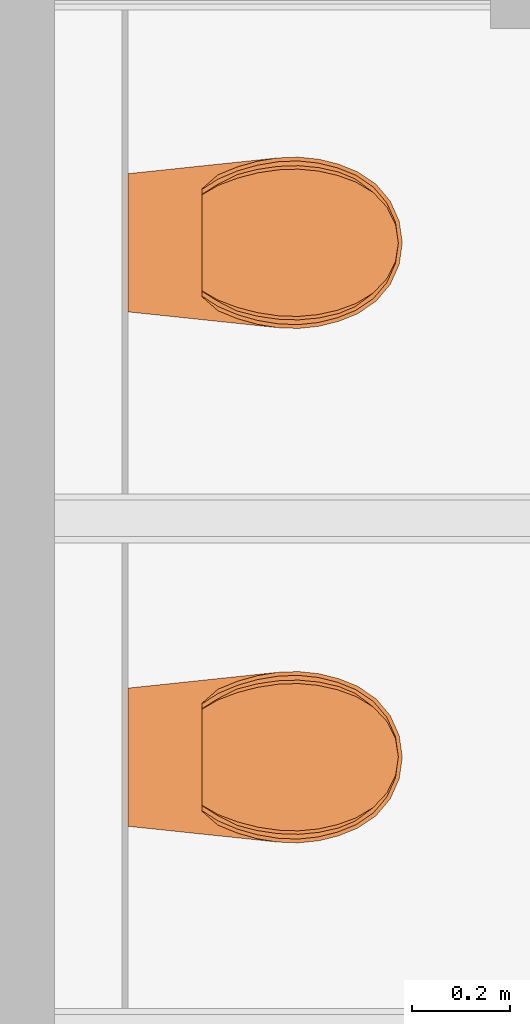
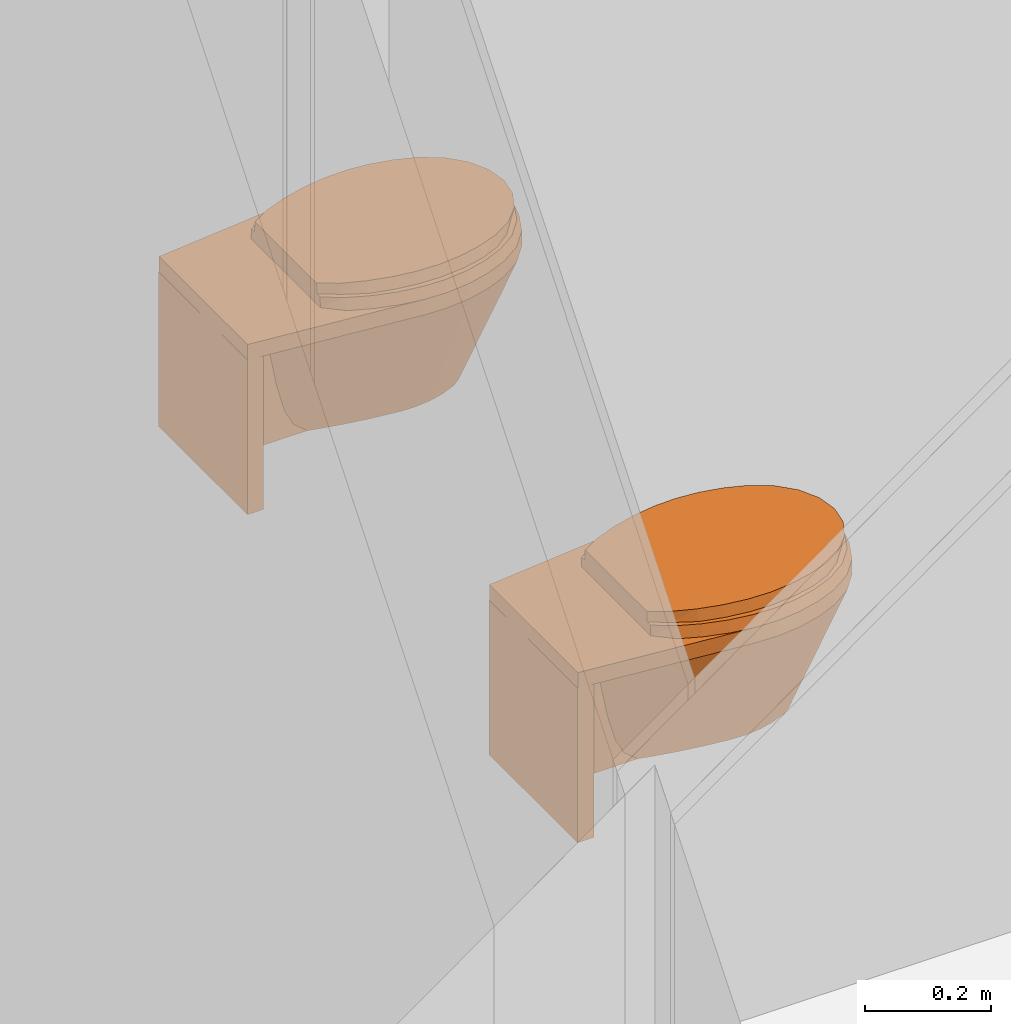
# One storey, part 129 of 135: 2 proxies.
"""IFC2X3 building model written with IfcOpenShell, lengths in millimetres."""

from ifc_helpers import new_model, entity, si_unit, converted_unit, derived_unit, money_unit, direction, frame, origin_with_axes, place, context, subcontext, project, spatial, open_shell, faceted_brep, surface_model, source, transform, mapped, type_object, type_shapes, element, save


model = new_model("IFC2X3")

# Units and contexts
model_context = context("Model", 3, precision=0.01, world=origin_with_axes(), true_north=direction((0.0, 1.0)))
body_context = subcontext(model_context, "Body", "Model", "MODEL_VIEW")
ifc_project = project(units=[si_unit("LENGTHUNIT", "METRE", prefix="MILLI"), si_unit("AREAUNIT", "SQUARE_METRE"), si_unit("VOLUMEUNIT", "CUBIC_METRE"), converted_unit("PLANEANGLEUNIT", "DEGREE", entity("IfcPlaneAngleMeasure", 0.0174532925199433), si_unit("PLANEANGLEUNIT", "RADIAN"), dimensions=[0, 0, 0, 0, 0, 0, 0]), money_unit("EUR"), converted_unit("TIMEUNIT", "Year", entity("IfcTimeMeasure", 31557600.0), si_unit("TIMEUNIT", "SECOND"), dimensions=[0, 0, 1, 0, 0, 0, 0]), si_unit("MASSUNIT", "GRAM", prefix="KILO"), si_unit("THERMODYNAMICTEMPERATUREUNIT", "DEGREE_CELSIUS"), si_unit("LUMINOUSINTENSITYUNIT", "LUMEN"), si_unit("ENERGYUNIT", "JOULE", prefix="MEGA"), derived_unit("THERMALCONDUCTANCEUNIT", [(si_unit("POWERUNIT", "WATT"), 1), (si_unit("LENGTHUNIT", "METRE"), -1), (si_unit("THERMODYNAMICTEMPERATUREUNIT", "KELVIN"), -1)]), derived_unit("SPECIFICHEATCAPACITYUNIT", [(si_unit("ENERGYUNIT", "JOULE"), 1), (si_unit("MASSUNIT", "GRAM", prefix="KILO"), -1), (si_unit("THERMODYNAMICTEMPERATUREUNIT", "KELVIN"), -1)]), derived_unit("MASSDENSITYUNIT", [(si_unit("MASSUNIT", "GRAM", prefix="KILO"), 1), (si_unit("VOLUMEUNIT", "CUBIC_METRE"), -1)])], contexts=[model_context])

# Site, building, storey
site_placement = place(None, origin_with_axes())
site = spatial("IfcSite", under=ifc_project, at=site_placement, Name="Site", CompositionType="ELEMENT")
building_placement = place(site_placement, origin_with_axes())
building = spatial("IfcBuilding", under=site, at=building_placement, Name="Naam gebouw", CompositionType="ELEMENT")
storey_placement = place(building_placement, origin_with_axes())
storey = spatial("IfcBuildingStorey", under=building, at=storey_placement, Name="Begane grond N", CompositionType="ELEMENT", Elevation=0.0)

# Proxies
building_element_proxy_type = type_object("IfcBuildingElementProxyType", Name="Toilet 27", PredefinedType="NOTDEFINED")
shared_shape = source(origin_with_axes(), body_context, "Body", "SurfaceModel", [
    faceted_brep([(141.0283315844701, -29.31865370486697, 69.99999999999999), (-141.0283315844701, -29.31865370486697, 69.99999999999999), (-141.0283315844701, 0.4949050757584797, 69.99999999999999), (141.0283315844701, 0.4949050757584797, 69.99999999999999), (141.0283315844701, -29.31865370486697, 370.0), (-141.0283315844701, -29.31865370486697, 370.0), (-141.0283315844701, 0.4949050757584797, 370.0), (141.0283315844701, 0.4949050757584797, 370.0)], [[[0, 1, 2, 3]], [[1, 0, 4, 5]], [[2, 1, 5, 6]], [[3, 2, 6, 7]], [[0, 3, 7, 4]], [[5, 4, 7, 6]]]),
    faceted_brep([(0.0, -70.89167385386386, 370.0), (29.22322490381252, -74.34010881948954, 370.0), (48.96817068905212, -81.5929972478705, 370.0), (48.96817068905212, -29.31865370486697, 370.0), (-48.96817068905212, -29.31865370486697, 370.0), (-48.96817068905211, -81.5929972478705, 370.0), (-29.22322490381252, -74.34010881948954, 370.0), (13.70129415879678, -104.9506834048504, 120.0), (48.96817068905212, -91.42153264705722, 305.9289314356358), (25.9903462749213, -111.5027098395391, 120.0), (48.96817068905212, -132.9294031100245, 150.8349994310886), (48.96817068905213, -162.8654130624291, 120.0), (48.96817068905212, -29.31865370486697, 120.0), (48.96817068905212, -98.32654517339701, 277.0091093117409), (48.96817068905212, -115.6023982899, 192.7960154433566), (48.96817068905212, -128.1614437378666, 166.4745945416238), (-48.96817068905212, -29.31865370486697, 120.0), (-48.96817068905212, -88.2509938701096, 324.1614695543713), (-48.96817068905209, -162.865413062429, 120.0), (-48.96817068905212, -136.958898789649, 141.3134093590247), (-48.96817068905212, -132.9294031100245, 150.8349994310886), (-48.96817068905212, -121.830119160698, 170.4964192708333), (-48.96817068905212, -115.6023982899, 192.7960154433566), (-48.96817068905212, -107.0876370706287, 223.4625696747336), (-48.96817068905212, -91.42153264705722, 305.9289314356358), (-13.70129415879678, -104.9506834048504, 120.0), (0.0, -102.6888280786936, 120.0), (35.59888072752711, -121.6691333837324, 120.0), (41.53676110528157, -134.4015105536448, 120.0), (-41.53676110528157, -134.4015105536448, 120.0), (-25.9903462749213, -111.5027098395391, 120.0), (-35.59888072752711, -121.6691333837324, 120.0)], [[[0, 1, 2, 3, 4, 5, 6]], [[1, 0, 7]], [[8, 2, 1, 9]], [[10, 11, 12, 3, 2, 8, 13, 14, 15]], [[3, 12, 16, 4]], [[17, 5, 4, 16, 18, 19, 20, 21, 22, 23, 24]], [[6, 5, 17, 25]], [[0, 6, 26]], [[26, 7, 0]], [[7, 9, 1]], [[13, 8, 9, 27]], [[11, 10, 28]], [[29, 18, 16, 12, 11, 28, 27, 9, 7, 26, 25, 30, 31]], [[14, 13, 27]], [[15, 14, 27, 28]], [[10, 15, 28]], [[18, 29, 19]], [[20, 19, 29]], [[29, 31, 21, 20]], [[22, 21, 31]], [[31, 30, 23, 22]], [[24, 23, 30]], [[30, 25, 17, 24]], [[25, 26, 6]]]),
    surface_model("IfcShellBasedSurfaceModel", [(17.69122070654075, -459.020482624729, 120.0), (34.02798181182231, -451.6883347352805, 120.0), (85.18209164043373, -535.3680377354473, 370.0), (0.0, -461.5278029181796, 120.0), (-17.69122070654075, -459.020482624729, 120.0), (-34.02798181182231, -451.6883347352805, 120.0), (-47.75865687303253, -440.0938417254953, 120.0), (-57.83238894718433, -425.1254476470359, 120.0), (-68.23029031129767, -399.4182096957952, 120.0), (-74.94382651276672, -372.4786779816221, 120.0), (-77.83882476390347, -344.8464779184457, 120.0), (-76.85750262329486, -317.0761416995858, 120.0), (-70.97348723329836, -270.8651255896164, 120.0), (-63.11507520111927, -224.9582077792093, 120.0), (-53.29597761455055, -179.4418475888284, 120.0), (-41.53676110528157, -134.4015105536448, 120.0), (-35.59888072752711, -121.6691333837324, 120.0), (-25.9903462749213, -111.5027098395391, 120.0), (-13.70129415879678, -104.9506834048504, 120.0), (0.0, -102.6888280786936, 120.0), (13.70129415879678, -104.9506834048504, 120.0), (25.9903462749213, -111.5027098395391, 120.0), (35.59888072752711, -121.6691333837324, 120.0), (41.53676110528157, -134.4015105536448, 120.0), (53.29597761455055, -179.4418475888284, 120.0), (63.11507520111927, -224.9582077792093, 120.0), (70.97348723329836, -270.8651255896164, 120.0), (76.85750262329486, -317.0761416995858, 120.0), (77.83882476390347, -344.845484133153, 120.0), (74.94382651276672, -372.4786779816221, 120.0), (68.23029031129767, -399.4182096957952, 120.0), (57.83238894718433, -425.1254476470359, 120.0), (47.75865687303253, -440.0938417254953, 120.0), (119.554809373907, -506.3435444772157, 370.0), (44.28681357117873, -553.722258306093, 370.0), (0.0, -560.0, 370.0), (-44.28681357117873, -553.722258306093, 370.0), (-85.18209164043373, -535.3680377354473, 370.0), (-119.554809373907, -506.3435444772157, 370.0), (-144.7734172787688, -468.8718762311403, 370.0), (-160.3893669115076, -430.2603362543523, 370.0), (-170.4738719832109, -389.7973742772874, 370.0), (-174.8222455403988, -348.2949128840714, 370.0), (-173.3473242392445, -306.5847503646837, 370.0), (-164.8111927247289, -257.295981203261, 370.0), (-149.8396642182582, -209.614162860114, 370.0), (-128.7050017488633, -164.3989196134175, 370.0), (-101.7881776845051, -122.4661491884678, 370.0), (-81.51241692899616, -100.8344247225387, 370.0), (-56.88632388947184, -84.50156343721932, 370.0), (-29.22322490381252, -74.34010881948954, 370.0), (0.0, -70.89167385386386, 370.0), (29.22322490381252, -74.34010881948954, 370.0), (56.88632388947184, -84.50156343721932, 370.0), (81.51241692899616, -100.8344247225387, 370.0), (101.7881776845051, -122.4661491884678, 370.0), (128.7050017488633, -164.3989196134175, 370.0), (149.8396642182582, -209.614162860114, 370.0), (164.8111927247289, -257.2969749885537, 370.0), (173.3473242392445, -306.5847503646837, 370.0), (174.8222455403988, -348.2949128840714, 370.0), (170.4738719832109, -389.7973742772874, 370.0), (160.3903462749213, -430.2603362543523, 370.0), (144.7734172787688, -468.8718762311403, 370.0)], [open_shell([[[0, 1, 2]], [[0, 3, 4, 5, 6, 7, 8, 9, 10, 11, 12, 13, 14, 15, 16, 17, 18, 19, 20, 21, 22, 23, 24, 25, 26, 27, 28, 29, 30, 31, 32, 1]], [[1, 33, 2]], [[0, 2, 34]], [[3, 0, 34]], [[4, 3, 35]], [[5, 4, 36]], [[6, 5, 37]], [[7, 6, 38]], [[8, 7, 39]], [[9, 8, 40]], [[10, 9, 41]], [[11, 10, 42]], [[12, 11, 43]], [[13, 12, 44]], [[14, 13, 45]], [[15, 14, 46]], [[16, 15, 47]], [[17, 16, 48]], [[18, 17, 49]], [[19, 18, 50]], [[20, 19, 51]], [[21, 20, 52]], [[22, 21, 53]], [[23, 22, 54]], [[24, 23, 55]], [[25, 24, 56]], [[26, 25, 57]], [[27, 26, 58]], [[28, 27, 59]], [[29, 28, 60]], [[30, 29, 61]], [[31, 30, 62]], [[32, 31, 63]], [[1, 32, 33]], [[3, 34, 35]], [[4, 35, 36]], [[5, 36, 37]], [[6, 37, 38]], [[7, 38, 39]], [[8, 39, 40]], [[9, 40, 41]], [[10, 41, 42]], [[11, 42, 43]], [[12, 43, 44]], [[13, 44, 45]], [[14, 45, 46]], [[15, 46, 47]], [[16, 47, 48]], [[17, 48, 49]], [[18, 49, 50]], [[19, 50, 51]], [[20, 51, 52]], [[21, 52, 53]], [[22, 53, 54]], [[23, 54, 55]], [[24, 55, 56]], [[25, 56, 57]], [[26, 57, 58]], [[27, 58, 59]], [[28, 59, 60]], [[29, 60, 61]], [[30, 61, 62]], [[31, 62, 63]], [[32, 63, 33]]])]),
    faceted_brep([(-173.3473242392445, -306.5847503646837, 370.0), (-174.8222455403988, -348.2949128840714, 370.0), (-174.8222455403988, -348.2949128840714, 400.0), (-173.3473242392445, -306.5847503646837, 400.0), (-140.9734872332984, 0.0, 370.0), (140.975445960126, 0.0, 370.0), (173.3473242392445, -306.5847503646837, 370.0), (174.8222455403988, -348.2949128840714, 370.0), (170.4738719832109, -389.7973742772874, 370.0), (160.3903462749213, -430.2603362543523, 370.0), (144.7734172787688, -468.8718762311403, 370.0), (119.554809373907, -506.3435444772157, 370.0), (85.18209164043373, -535.3680377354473, 370.0), (44.28681357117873, -553.722258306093, 370.0), (0.0, -560.0, 370.0), (-44.28681357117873, -553.722258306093, 370.0), (-85.18209164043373, -535.3680377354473, 370.0), (-119.554809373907, -506.3435444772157, 370.0), (-144.7734172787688, -468.8718762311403, 370.0), (-160.3893669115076, -430.2603362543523, 370.0), (-170.4738719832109, -389.7973742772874, 370.0), (144.5021336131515, -309.7211367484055, 370.0), (129.3885974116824, -258.2838037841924, 370.0), (97.13522210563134, -215.7418429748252, 370.0), (52.01301154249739, -187.731010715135, 370.0), (0.0, -177.9630950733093, 370.0), (-52.01301154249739, -187.731010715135, 370.0), (-97.13522210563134, -215.7418429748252, 370.0), (-129.3885974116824, -258.2838037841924, 370.0), (-144.5021336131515, -309.7211367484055, 370.0), (-145.8291710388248, -347.2633637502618, 370.0), (-141.914655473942, -384.6197529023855, 370.0), (-132.838894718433, -421.0399963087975, 370.0), (-118.7820916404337, -455.7936617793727, 370.0), (-98.09206016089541, -486.5383973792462, 370.0), (-69.89031129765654, -510.3524743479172, 370.0), (-36.33634137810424, -525.411302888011, 370.0), (0.0, -530.5620920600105, 370.0), (36.33634137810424, -525.411302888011, 370.0), (69.89031129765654, -510.3524743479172, 370.0), (98.09206016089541, -486.5383973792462, 370.0), (118.7820916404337, -455.7936617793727, 370.0), (132.838894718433, -421.0399963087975, 370.0), (141.914655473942, -384.6197529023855, 370.0), (145.8291710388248, -347.2633637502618, 370.0), (-170.4738719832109, -389.7973742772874, 400.0), (-160.3893669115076, -430.2603362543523, 400.0), (-144.7734172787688, -468.8718762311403, 400.0), (-119.554809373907, -506.3435444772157, 400.0), (-85.18209164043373, -535.3680377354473, 400.0), (-44.28681357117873, -553.722258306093, 400.0), (0.0, -560.0, 400.0), (44.28681357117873, -553.722258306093, 400.0), (85.18209164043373, -535.3680377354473, 400.0), (119.554809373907, -506.3435444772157, 400.0), (144.7734172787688, -468.8718762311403, 400.0), (160.3903462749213, -430.2603362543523, 400.0), (170.4738719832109, -389.7973742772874, 400.0), (174.8222455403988, -348.2949128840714, 400.0), (173.3473242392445, -306.5847503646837, 400.0), (140.975445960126, 0.0, 400.0), (-140.9734872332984, 0.0, 400.0), (144.5021336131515, -309.7211367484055, 400.0), (145.8291710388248, -347.2633637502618, 400.0), (141.914655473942, -384.6197529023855, 400.0), (132.838894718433, -421.0399963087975, 400.0), (118.7820916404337, -455.7936617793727, 400.0), (98.09206016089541, -486.5383973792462, 400.0), (69.89031129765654, -510.3524743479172, 400.0), (36.33634137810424, -525.411302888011, 400.0), (0.0, -530.5620920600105, 400.0), (-36.33634137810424, -525.411302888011, 400.0), (-69.89031129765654, -510.3524743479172, 400.0), (-98.09206016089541, -486.5383973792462, 400.0), (-118.7820916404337, -455.7936617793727, 400.0), (-132.838894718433, -421.0399963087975, 400.0), (-141.914655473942, -384.6197529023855, 400.0), (-145.8291710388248, -347.2633637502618, 400.0), (-144.5021336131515, -309.7211367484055, 400.0), (-129.3885974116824, -258.2838037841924, 400.0), (-97.13522210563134, -215.7418429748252, 400.0), (-52.01301154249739, -187.731010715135, 400.0), (0.0, -177.9630950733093, 400.0), (52.01301154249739, -187.731010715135, 400.0), (97.13522210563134, -215.7418429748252, 400.0), (129.3885974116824, -258.2838037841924, 400.0)], [[[0, 1, 2, 3]], [[0, 4, 5, 6, 7, 8, 9, 10, 11, 12, 13, 14, 15, 16, 17, 18, 19, 20, 1], [21, 22, 23, 24, 25, 26, 27, 28, 29, 30, 31, 32, 33, 34, 35, 36, 37, 38, 39, 40, 41, 42, 43, 44]], [[1, 20, 45, 2]], [[3, 2, 45, 46, 47, 48, 49, 50, 51, 52, 53, 54, 55, 56, 57, 58, 59, 60, 61], [62, 63, 64, 65, 66, 67, 68, 69, 70, 71, 72, 73, 74, 75, 76, 77, 78, 79, 80, 81, 82, 83, 84, 85]], [[4, 0, 3, 61]], [[5, 4, 61, 60]], [[6, 5, 60, 59]], [[7, 6, 59, 58]], [[8, 7, 58, 57]], [[9, 8, 57, 56]], [[10, 9, 56, 55]], [[11, 10, 55, 54]], [[12, 11, 54, 53]], [[13, 12, 53, 52]], [[14, 13, 52, 51]], [[15, 14, 51, 50]], [[16, 15, 50, 49]], [[17, 16, 49, 48]], [[18, 17, 48, 47]], [[19, 18, 47, 46]], [[20, 19, 46, 45]], [[22, 21, 62, 85]], [[23, 22, 85, 84]], [[24, 23, 84, 83]], [[25, 24, 83, 82]], [[26, 25, 82, 81]], [[27, 26, 81, 80]], [[28, 27, 80, 79]], [[29, 28, 79, 78]], [[30, 29, 78, 77]], [[31, 30, 77, 76]], [[32, 31, 76, 75]], [[33, 32, 75, 74]], [[34, 33, 74, 73]], [[35, 34, 73, 72]], [[36, 35, 72, 71]], [[37, 36, 71, 70]], [[38, 37, 70, 69]], [[39, 38, 69, 68]], [[40, 39, 68, 67]], [[41, 40, 67, 66]], [[42, 41, 66, 65]], [[43, 42, 65, 64]], [[44, 43, 64, 63]], [[21, 44, 63, 62]]]),
    surface_model("IfcShellBasedSurfaceModel", [(16.80665967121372, -465.7329258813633, 220.0), (32.3265827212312, -460.0138505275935, 220.0), (80.92298705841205, -525.2840188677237, 370.0), (0.0, -467.6886357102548, 220.0), (-16.80665967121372, -465.7329258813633, 220.0), (-32.3265827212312, -460.0138505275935, 220.0), (-45.3707240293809, -450.970145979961, 220.0), (-54.94076949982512, -439.2947985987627, 220.0), (-64.81877579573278, -419.2431529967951, 220.0), (-71.1966351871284, -398.23031825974, 220.0), (-73.9468835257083, -376.6772022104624, 220.0), (-73.01462749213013, -355.0163399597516, 220.0), (-67.42481287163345, -318.9717473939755, 220.0), (-59.95932144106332, -283.164351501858, 220.0), (-50.63117873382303, -247.6615905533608, 220.0), (-39.4599230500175, -212.5301276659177, 220.0), (-33.81893669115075, -202.598873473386, 220.0), (-24.69082896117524, -194.6690631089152, 220.0), (-13.01622945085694, -189.558482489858, 220.0), (0.0, -187.7942353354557, 220.0), (13.01622945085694, -189.558482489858, 220.0), (24.69082896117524, -194.6690631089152, 220.0), (33.81893669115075, -202.598873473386, 220.0), (39.4599230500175, -212.5301276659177, 220.0), (50.63117873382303, -247.6615905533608, 220.0), (59.95932144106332, -283.164351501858, 220.0), (67.42481287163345, -318.9717473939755, 220.0), (73.01462749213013, -355.0163399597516, 220.0), (73.9468835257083, -376.6764270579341, 220.0), (71.1966351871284, -398.23031825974, 220.0), (64.81877579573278, -419.2431529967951, 220.0), (54.94076949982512, -439.2947985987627, 220.0), (45.3707240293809, -450.970145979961, 220.0), (113.5770689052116, -502.644914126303, 370.0), (42.0724728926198, -539.6003109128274, 370.0), (0.0, -544.4969494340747, 370.0), (-42.0724728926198, -539.6003109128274, 370.0), (-80.92298705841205, -525.2840188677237, 370.0), (-113.5770689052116, -502.644914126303, 370.0), (-137.5347464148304, -473.4170128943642, 370.0), (-152.3698985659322, -443.3000117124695, 370.0), (-161.9501783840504, -411.7389013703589, 370.0), (-166.0811332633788, -379.3669814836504, 370.0), (-164.6799580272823, -346.833054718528, 370.0), (-156.5706330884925, -308.3878147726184, 370.0), (-142.3476810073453, -271.1959964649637, 370.0), (-122.2697516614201, -235.9281067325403, 370.0), (-96.69876880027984, -203.2205458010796, 370.0), (-77.43679608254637, -186.3478007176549, 370.0), (-54.04200769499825, -173.6081689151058, 370.0), (-27.7620636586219, -165.6822343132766, 370.0), (0.0, -162.9924550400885, 370.0), (27.7620636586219, -165.6822343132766, 370.0), (54.04200769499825, -173.6081689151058, 370.0), (77.43679608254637, -186.3478007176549, 370.0), (96.69876880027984, -203.2205458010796, 370.0), (122.2697516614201, -235.9281067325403, 370.0), (142.3476810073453, -271.1959964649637, 370.0), (156.5706330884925, -308.3885899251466, 370.0), (164.6799580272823, -346.833054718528, 370.0), (166.0811332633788, -379.3669814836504, 370.0), (161.9501783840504, -411.7389013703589, 370.0), (152.3708289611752, -443.3000117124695, 370.0), (137.5347464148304, -473.4170128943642, 370.0)], [open_shell([[[0, 1, 2]], [[0, 3, 4, 5, 6, 7, 8, 9, 10, 11, 12, 13, 14, 15, 16, 17, 18, 19, 20, 21, 22, 23, 24, 25, 26, 27, 28, 29, 30, 31, 32, 1]], [[1, 33, 2]], [[0, 2, 34]], [[3, 0, 34]], [[4, 3, 35]], [[5, 4, 36]], [[6, 5, 37]], [[7, 6, 38]], [[8, 7, 39]], [[9, 8, 40]], [[10, 9, 41]], [[11, 10, 42]], [[12, 11, 43]], [[13, 12, 44]], [[14, 13, 45]], [[15, 14, 46]], [[16, 15, 47]], [[17, 16, 48]], [[18, 17, 49]], [[19, 18, 50]], [[20, 19, 51]], [[21, 20, 52]], [[22, 21, 53]], [[23, 22, 54]], [[24, 23, 55]], [[25, 24, 56]], [[26, 25, 57]], [[27, 26, 58]], [[28, 27, 59]], [[29, 28, 60]], [[30, 29, 61]], [[31, 30, 62]], [[32, 31, 63]], [[1, 32, 33]], [[3, 34, 35]], [[4, 35, 36]], [[5, 36, 37]], [[6, 37, 38]], [[7, 38, 39]], [[8, 39, 40]], [[9, 40, 41]], [[10, 41, 42]], [[11, 42, 43]], [[12, 43, 44]], [[13, 44, 45]], [[14, 45, 46]], [[15, 46, 47]], [[16, 47, 48]], [[17, 48, 49]], [[18, 49, 50]], [[19, 50, 51]], [[20, 51, 52]], [[21, 52, 53]], [[22, 53, 54]], [[23, 54, 55]], [[24, 55, 56]], [[25, 56, 57]], [[26, 57, 58]], [[27, 58, 59]], [[28, 59, 60]], [[29, 60, 61]], [[30, 61, 62]], [[31, 62, 63]], [[32, 63, 33]]])]),
    faceted_brep([(0.0, -560.0, 400.0), (-44.28681357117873, -553.722258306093, 400.0), (-85.18209164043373, -535.3680377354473, 400.0), (-119.554809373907, -506.3435444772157, 400.0), (-144.7734172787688, -468.8718762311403, 400.0), (-160.3893669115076, -430.2603362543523, 400.0), (-170.4738719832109, -389.7973742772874, 400.0), (-174.8222455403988, -348.2949128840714, 400.0), (-173.3473242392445, -306.5847503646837, 400.0), (-166.4663168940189, -264.4263906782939, 400.0), (-154.8716334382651, -223.3443004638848, 400.0), (-138.7150752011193, -183.8810864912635, 400.0), (-110.1926579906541, -151.3163525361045, 400.0), (110.1926579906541, -151.3163525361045, 400.0), (138.7150752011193, -183.8810864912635, 400.0), (154.8716334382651, -223.3443004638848, 400.0), (166.4663168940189, -264.4263906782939, 400.0), (173.3473242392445, -306.5847503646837, 400.0), (174.8222455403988, -348.2949128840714, 400.0), (170.4738719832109, -389.7973742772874, 400.0), (160.3903462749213, -430.2603362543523, 400.0), (144.7734172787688, -468.8718762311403, 400.0), (119.554809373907, -506.3435444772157, 400.0), (85.18209164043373, -535.3680377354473, 400.0), (44.28681357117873, -553.722258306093, 400.0), (87.07689659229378, -411.9963613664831, 400.0), (94.51085540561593, -382.2763031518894, 400.0), (97.71606496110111, -351.7983255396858, 400.0), (96.61425296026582, -320.7429308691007, 400.0), (90.99294096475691, -286.7942733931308, 400.0), (81.32886310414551, -253.3381075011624, 400.0), (68.75448552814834, -223.4663237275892, 400.0), (-68.75412876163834, -223.4663237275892, 400.0), (-81.3289539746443, -253.3384220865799, 400.0), (-90.99294096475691, -286.7942733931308, 400.0), (-96.61425296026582, -320.7429308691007, 400.0), (-97.71606496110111, -351.7983255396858, 400.0), (-94.51085540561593, -382.2763031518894, 400.0), (-87.07689659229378, -411.9963613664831, 400.0), (-76.4888004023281, -438.0775703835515, 400.0), (-62.06856874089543, -459.4262123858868, 400.0), (-44.26109835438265, -474.4067566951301, 400.0), (-23.02579943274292, -483.9023013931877, 400.0), (0.0, -487.1544663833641, 400.0), (23.02579943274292, -483.9023013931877, 400.0), (44.26109835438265, -474.4067566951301, 400.0), (62.06856874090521, -459.4262123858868, 400.0), (76.4888004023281, -438.0775703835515, 400.0), (0.0, -552.0944379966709, 420.0000000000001), (-42.15180132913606, -546.1188070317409, 420.0000000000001), (-81.07562084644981, -528.649055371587, 420.0000000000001), (-113.7912556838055, -501.0248055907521, 420.0000000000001), (-137.7925148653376, -465.3598390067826, 420.0000000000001), (-152.9902763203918, -427.7848170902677, 420.0000000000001), (-162.8034977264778, -388.4070686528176, 420.0000000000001), (-167.0353270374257, -348.0176467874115, 420.0000000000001), (-165.6005596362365, -307.4274802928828, 420.0000000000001), (-158.5902763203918, -264.9332211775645, 420.0000000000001), (-146.6880727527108, -223.5758524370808, 420.0000000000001), (-130.06142007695, -183.9317695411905, 420.0000000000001), (-108.940468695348, -151.3163525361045, 420.0000000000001), (108.940468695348, -151.3163525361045, 420.0000000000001), (130.06142007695, -183.9307757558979, 420.0000000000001), (146.6880727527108, -223.5758524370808, 420.0000000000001), (158.5902763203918, -264.9332211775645, 420.0000000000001), (165.6005596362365, -307.4274802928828, 420.0000000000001), (167.0353270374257, -348.0176467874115, 420.0000000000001), (162.8034977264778, -388.4070686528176, 420.0000000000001), (152.9902763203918, -427.7848170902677, 420.0000000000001), (137.7925148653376, -465.3598390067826, 420.0000000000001), (113.7912556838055, -501.0248055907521, 420.0000000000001), (81.07562084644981, -528.649055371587, 420.0000000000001), (42.15180132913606, -546.1188070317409, 420.0000000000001), (87.07689659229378, -411.9963613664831, 420.0), (94.51085540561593, -382.2763031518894, 420.0), (97.71606496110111, -351.7983255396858, 420.0), (96.61425296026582, -320.7429308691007, 420.0), (90.99294096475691, -286.7942733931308, 420.0), (81.32886310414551, -253.3381075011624, 420.0), (68.75448552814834, -223.4663237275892, 420.0), (-68.75412876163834, -223.4663237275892, 420.0000000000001), (-81.3289539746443, -253.3384220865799, 420.0000000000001), (-90.99294096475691, -286.7942733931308, 420.0000000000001), (-96.61425296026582, -320.7429308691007, 420.0000000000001), (-97.71606496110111, -351.7983255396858, 420.0000000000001), (-94.51085540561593, -382.2763031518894, 420.0000000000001), (-87.07689659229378, -411.9963613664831, 420.0000000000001), (-76.4888004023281, -438.0775703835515, 420.0000000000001), (-62.06856874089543, -459.4262123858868, 420.0000000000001), (-44.26109835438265, -474.4067566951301, 420.0000000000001), (-23.02579943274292, -483.9023013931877, 420.0000000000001), (0.0, -487.1544663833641, 420.0), (23.02579943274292, -483.9023013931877, 420.0), (44.26109835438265, -474.4067566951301, 420.0), (62.06856874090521, -459.4262123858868, 420.0), (76.4888004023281, -438.0775703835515, 420.0)], [[[0, 1, 2, 3, 4, 5, 6, 7, 8, 9, 10, 11, 12, 13, 14, 15, 16, 17, 18, 19, 20, 21, 22, 23, 24], [25, 26, 27, 28, 29, 30, 31, 32, 33, 34, 35, 36, 37, 38, 39, 40, 41, 42, 43, 44, 45, 46, 47]], [[1, 0, 48]], [[2, 1, 49]], [[3, 2, 50]], [[4, 3, 51]], [[5, 4, 52]], [[6, 5, 53]], [[6, 54, 55, 7]], [[8, 7, 55]], [[9, 8, 56]], [[10, 9, 57]], [[11, 10, 58]], [[12, 11, 59]], [[12, 60, 61, 13]], [[14, 13, 61]], [[15, 14, 62]], [[16, 15, 63]], [[17, 16, 64]], [[18, 17, 65]], [[18, 66, 67, 19]], [[20, 19, 67]], [[20, 68, 69, 21]], [[22, 21, 69]], [[23, 22, 70]], [[24, 23, 71]], [[0, 24, 72]], [[73, 74, 26, 25]], [[74, 75, 27, 26]], [[75, 76, 28, 27]], [[76, 77, 29, 28]], [[77, 78, 30, 29]], [[78, 79, 31, 30]], [[79, 80, 32, 31]], [[80, 81, 33, 32]], [[81, 82, 34, 33]], [[82, 83, 35, 34]], [[83, 84, 36, 35]], [[84, 85, 37, 36]], [[85, 86, 38, 37]], [[86, 87, 39, 38]], [[87, 88, 40, 39]], [[88, 89, 41, 40]], [[89, 90, 42, 41]], [[90, 91, 43, 42]], [[91, 92, 44, 43]], [[92, 93, 45, 44]], [[93, 94, 46, 45]], [[94, 95, 47, 46]], [[95, 73, 25, 47]], [[0, 72, 48]], [[1, 48, 49]], [[2, 49, 50]], [[3, 50, 51]], [[4, 51, 52]], [[5, 52, 53]], [[6, 53, 54]], [[54, 53, 52, 51, 50, 49, 48, 72, 71, 70, 69, 68, 67, 66, 65, 64, 63, 62, 61, 60, 59, 58, 57, 56, 55], [77, 76, 75, 74, 73, 95, 94, 93, 92, 91, 90, 89, 88, 87, 86, 85, 84, 83, 82, 81, 80, 79, 78]], [[8, 55, 56]], [[9, 56, 57]], [[10, 57, 58]], [[11, 58, 59]], [[12, 59, 60]], [[14, 61, 62]], [[15, 62, 63]], [[16, 63, 64]], [[17, 64, 65]], [[18, 65, 66]], [[20, 67, 68]], [[22, 69, 70]], [[23, 70, 71]], [[24, 71, 72]]]),
    faceted_brep([(-107.5993284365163, -494.4181209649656, 420.0000000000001), (-76.66388247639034, -519.4674730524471, 420.0000000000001), (-72.96805876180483, -528.649055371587, 440.0000000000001), (-130.2960755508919, -463.9029497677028, 420.0000000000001), (-144.3504302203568, -430.2603362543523, 420.0000000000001), (-153.4264847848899, -389.7973742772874, 420.0000000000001), (-157.3400209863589, -348.2949128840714, 420.0000000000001), (-156.01259181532, -306.5847503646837, 420.0000000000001), (-149.819685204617, -264.4263906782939, 420.0000000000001), (-139.3844700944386, -223.3443004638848, 420.0000000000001), (-119.5550052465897, -183.8810864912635, 420.0000000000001), (-99.17339219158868, -151.3163525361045, 420.0000000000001), (99.17339219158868, -151.3163525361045, 420.0000000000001), (119.5550052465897, -183.8810864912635, 420.0000000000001), (139.3844700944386, -223.3443004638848, 420.0000000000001), (149.819685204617, -264.4263906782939, 420.0000000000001), (156.01259181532, -306.5847503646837, 420.0000000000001), (157.3400209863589, -348.2949128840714, 420.0000000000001), (153.4264847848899, -389.7973742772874, 420.0000000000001), (144.3513116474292, -430.2603362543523, 420.0000000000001), (130.2960755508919, -463.9029497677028, 420.0000000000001), (107.5993284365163, -494.4181209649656, 420.0000000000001), (76.66388247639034, -519.4674730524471, 420.0000000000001), (39.85813221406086, -538.8154789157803, 420.0000000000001), (0.0, -545.0932206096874, 420.0000000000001), (-39.85813221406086, -538.8154789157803, 420.0000000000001), (-37.93662119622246, -546.1188070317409, 440.0000000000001), (-102.412130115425, -501.0248055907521, 440.0000000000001), (-124.0132633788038, -465.3598390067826, 440.0000000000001), (-137.6912486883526, -427.7848170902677, 440.0000000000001), (-146.52314795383, -388.4070686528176, 440.0000000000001), (-150.3317943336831, -348.0176467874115, 440.0000000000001), (-149.0405036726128, -307.4274802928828, 440.0000000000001), (-142.7312486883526, -264.9332211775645, 440.0000000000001), (-132.0192654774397, -223.5758524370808, 440.0000000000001), (-117.055278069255, -183.9317695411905, 440.0000000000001), (-98.04642182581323, -151.3163525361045, 440.0000000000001), (98.04642182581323, -151.3163525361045, 440.0000000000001), (117.055278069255, -183.9307757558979, 440.0000000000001), (132.0192654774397, -223.5758524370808, 440.0000000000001), (142.7312486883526, -264.9332211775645, 440.0000000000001), (149.0405036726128, -307.4274802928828, 440.0000000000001), (150.3317943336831, -348.0176467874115, 440.0000000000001), (146.52314795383, -388.4070686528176, 440.0000000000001), (137.6912486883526, -427.7848170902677, 440.0000000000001), (124.0132633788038, -465.3598390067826, 440.0000000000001), (102.412130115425, -501.0248055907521, 440.0000000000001), (72.96805876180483, -528.649055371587, 440.0000000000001), (37.93662119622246, -546.1188070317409, 440.0000000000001), (0.0, -552.0944379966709, 440.0000000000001)], [[[0, 1, 2]], [[0, 3, 4, 5, 6, 7, 8, 9, 10, 11, 12, 13, 14, 15, 16, 17, 18, 19, 20, 21, 22, 23, 24, 25, 1]], [[1, 26, 2]], [[0, 2, 27]], [[3, 0, 27]], [[4, 3, 28]], [[5, 4, 29]], [[6, 5, 30, 31]], [[7, 6, 31]], [[8, 7, 32]], [[9, 8, 33]], [[10, 9, 34]], [[11, 10, 35]], [[12, 11, 36, 37]], [[13, 12, 37]], [[14, 13, 38]], [[15, 14, 39]], [[16, 15, 40]], [[17, 16, 41]], [[18, 17, 42, 43]], [[19, 18, 43]], [[20, 19, 44]], [[21, 20, 45]], [[22, 21, 46]], [[23, 22, 47]], [[24, 23, 48]], [[25, 24, 49]], [[1, 25, 26]], [[27, 2, 26, 49, 48, 47, 46, 45, 44, 43, 42, 41, 40, 39, 38, 37, 36, 35, 34, 33, 32, 31, 30, 29, 28]], [[3, 27, 28]], [[4, 28, 29]], [[5, 29, 30]], [[7, 31, 32]], [[8, 32, 33]], [[9, 33, 34]], [[10, 34, 35]], [[11, 35, 36]], [[13, 37, 38]], [[14, 38, 39]], [[15, 39, 40]], [[16, 40, 41]], [[17, 41, 42]], [[19, 43, 44]], [[20, 44, 45]], [[21, 45, 46]], [[22, 46, 47]], [[23, 47, 48]], [[24, 48, 49]], [[25, 49, 26]]]),
])
type_shapes(building_element_proxy_type, [shared_shape])
for number, where, z_axis, x_axis, name in (
    (1, (20685.99999999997, 21925.91242510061, 0.0), (0.0, 0.0, 1.0), (0.0, 1.0, 0.0), "_Sanitair-x"),
    (2, (20685.99999999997, 20875.91242510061, 0.0), (0.0, 0.0, 1.0), (0.0, 1.0, 0.0), "_Sanitair-x"),
):
    element("IfcBuildingElementProxy", number, at=place(storey_placement, frame(where, z_axis=z_axis, x_axis=x_axis)), inside=storey, type_object=building_element_proxy_type, Name=name, context=body_context, shape_type="MappedRepresentation", body=[
        mapped(shared_shape, transform((0.0, 0.0, 0.0))),
    ])

save(model, "model.ifc")
